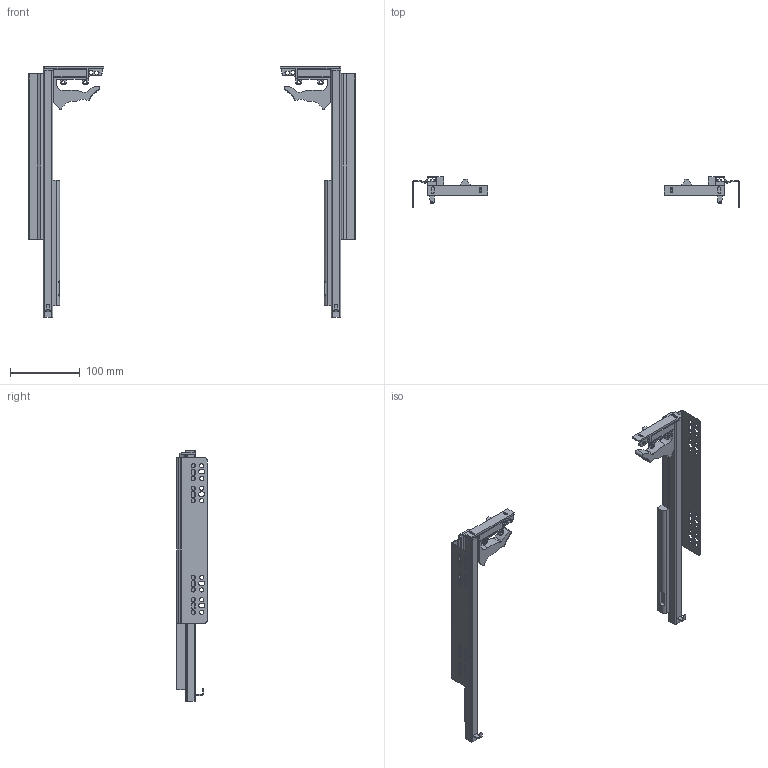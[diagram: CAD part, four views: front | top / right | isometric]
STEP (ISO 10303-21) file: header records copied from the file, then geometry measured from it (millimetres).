
FILE_DESCRIPTION(/* description */ ('Akc'),/* implementation_level */ '2;1');
FILE_NAME(/* name */ 'C:\Users\dmitruk\Documents\WORK\НАПРАВЛЯЮЩИЕ\Скрытого монтажа\Q-Type\Q-Type с замками (16 мм)\Q-Type с замками (16 мм)-350.stp',/* time_stamp */ '2022-04-22T17:47:18+03:00',/* author */ ('dmitruk'),/* organization */ (''),/* preprocessor_version */ 'ST-DEVELOPER v16.5',/* originating_system */ 'Autodesk Inventor 2017',/* authorisation */ '');
FILE_SCHEMA (('AUTOMOTIVE_DESIGN { 1 0 10303 214 3 1 1 }'));
Length unit declared in the file: millimetre
Products named in the file (6): Q-Type с замками 
(16 мм); Q-Type с замками \X2\043E0441
043D043E04320430043D04380435\X0\ L (16 мм); Q-Type с замками \X2\043E0441
043D043E04320430043D04380435\X0\ P (16 мм); Q-Type с замками 
выдвижение P; Крепление QType; Крепление QType P
Assembly tree (6 placements, depth 2):
  Q-Type с замками 
(16 мм)
    Q-Type с замками \X2\043E0441
043D043E04320430043D04380435\X0\ L (16 мм)
    Q-Type с замками 
выдвижение P  x2
    Q-Type с замками \X2\043E0441
043D043E04320430043D04380435\X0\ P (16 мм)
    Крепление QType
    Крепление QType P
Bounding box: 468 x 44 x 360 mm (x, y, z)
Volume: 211136.4 mm3; surface area: 222571.3 mm2
Topology: 16 solids, 16 shells, 578 faces, 1564 edges, 1022 vertices
Faces by surface type: plane 342, cylinder 212, cone 20, bspline 4
Full cylindrical faces by diameter (mm): 4.5 x4, 6 x32
Entity records: 17379 total; most frequent: CARTESIAN_POINT 3013, DIRECTION 2902, ORIENTED_EDGE 2824, EDGE_CURVE 1412, LINE 992, VECTOR 992, AXIS2_PLACEMENT_3D 955, VERTEX_POINT 950
